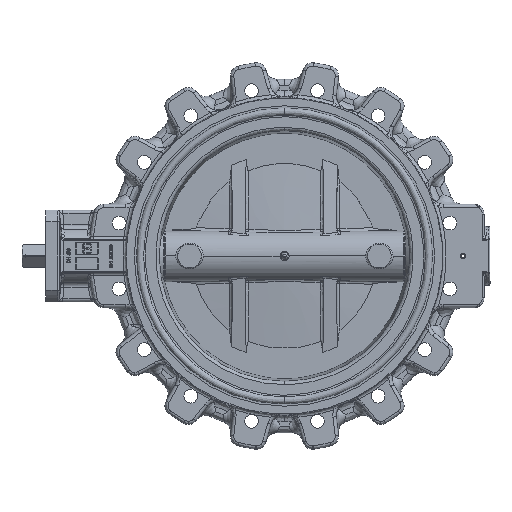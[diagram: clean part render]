
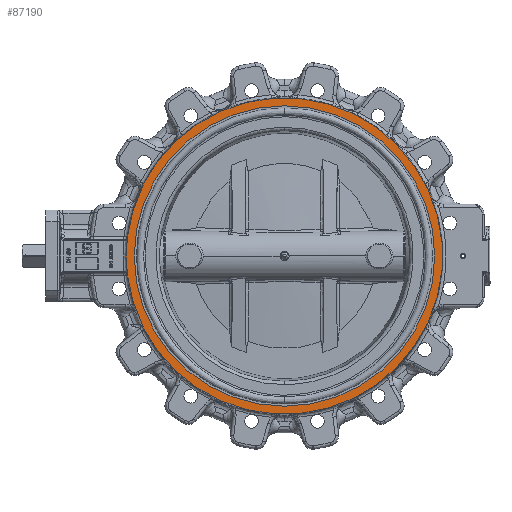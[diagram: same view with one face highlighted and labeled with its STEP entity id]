
A CAD part, left-side view. The second image highlights one B-rep face of the part: STEP entity #87190.
In plain terms, the highlighted planar face has unit normal (-1, 0, 0).
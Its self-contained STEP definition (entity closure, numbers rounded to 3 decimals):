
#2132 = CIRCLE ( 'NONE', #53442, 241.661 ) ;
#3669 = EDGE_CURVE ( 'NONE', #99487, #87664, #108392, .T. ) ;
#7993 = CARTESIAN_POINT ( 'NONE',  ( -51., 0., 0. ) ) ;
#12228 = DIRECTION ( 'NONE',  ( 0., 0., 1. ) ) ;
#17702 = DIRECTION ( 'NONE',  ( 0., 0., 1. ) ) ;
#22143 = EDGE_CURVE ( 'NONE', #97341, #26784, #2132, .T. ) ;
#22331 = ORIENTED_EDGE ( 'NONE', *, *, #22143, .F. ) ;
#25584 = AXIS2_PLACEMENT_3D ( 'NONE', #7993, #78154, #43020 ) ;
#26123 = EDGE_CURVE ( 'NONE', #87664, #99487, #78461, .T. ) ;
#26784 = VERTEX_POINT ( 'NONE', #49052 ) ;
#26890 = AXIS2_PLACEMENT_3D ( 'NONE', #73476, #46521, #17702 ) ;
#27083 = CIRCLE ( 'NONE', #25584, 241.661 ) ;
#29089 = ORIENTED_EDGE ( 'NONE', *, *, #85038, .T. ) ;
#30441 = DIRECTION ( 'NONE',  ( 0., 1., 0. ) ) ;
#35189 = CARTESIAN_POINT ( 'NONE',  ( -51., 0., -229.5 ) ) ;
#35633 = ORIENTED_EDGE ( 'NONE', *, *, #26123, .T. ) ;
#38032 = FACE_OUTER_BOUND ( 'NONE', #114742, .T. ) ;
#39030 = DIRECTION ( 'NONE',  ( 0., 0., 1. ) ) ;
#39400 = CARTESIAN_POINT ( 'NONE',  ( -51., 0., 0. ) ) ;
#43020 = DIRECTION ( 'NONE',  ( 0., 0., 1. ) ) ;
#44420 = CARTESIAN_POINT ( 'NONE',  ( -51., 0., 229.5 ) ) ;
#46521 = DIRECTION ( 'NONE',  ( 1., 0., 0. ) ) ;
#49052 = CARTESIAN_POINT ( 'NONE',  ( -51., 239.919, -28.958 ) ) ;
#53442 = AXIS2_PLACEMENT_3D ( 'NONE', #84650, #83120, #30441 ) ;
#54281 = ORIENTED_EDGE ( 'NONE', *, *, #3669, .T. ) ;
#56582 = DIRECTION ( 'NONE',  ( -1., 0., 0. ) ) ;
#57620 = AXIS2_PLACEMENT_3D ( 'NONE', #39400, #91388, #39030 ) ;
#61448 = AXIS2_PLACEMENT_3D ( 'NONE', #110084, #56582, #12228 ) ;
#65903 = FACE_BOUND ( 'NONE', #97995, .T. ) ;
#73476 = CARTESIAN_POINT ( 'NONE',  ( -51., 0., 0. ) ) ;
#78154 = DIRECTION ( 'NONE',  ( -1., 0., 0. ) ) ;
#78461 = CIRCLE ( 'NONE', #26890, 229.5 ) ;
#83120 = DIRECTION ( 'NONE',  ( 1., 0., 0. ) ) ;
#84650 = CARTESIAN_POINT ( 'NONE',  ( -51., 0., 0. ) ) ;
#85038 = EDGE_CURVE ( 'NONE', #97341, #26784, #27083, .T. ) ;
#87190 = ADVANCED_FACE ( 'NONE', ( #38032, #65903 ), #92155, .T. ) ;
#87664 = VERTEX_POINT ( 'NONE', #44420 ) ;
#90708 = CARTESIAN_POINT ( 'NONE',  ( -51., 239.919, 28.958 ) ) ;
#91388 = DIRECTION ( 'NONE',  ( 1., 0., 0. ) ) ;
#92155 = PLANE ( 'NONE',  #61448 ) ;
#97341 = VERTEX_POINT ( 'NONE', #90708 ) ;
#97995 = EDGE_LOOP ( 'NONE', ( #35633, #54281 ) ) ;
#99487 = VERTEX_POINT ( 'NONE', #35189 ) ;
#108392 = CIRCLE ( 'NONE', #57620, 229.5 ) ;
#110084 = CARTESIAN_POINT ( 'NONE',  ( -51., 249.475, 0. ) ) ;
#114742 = EDGE_LOOP ( 'NONE', ( #22331, #29089 ) ) ;
